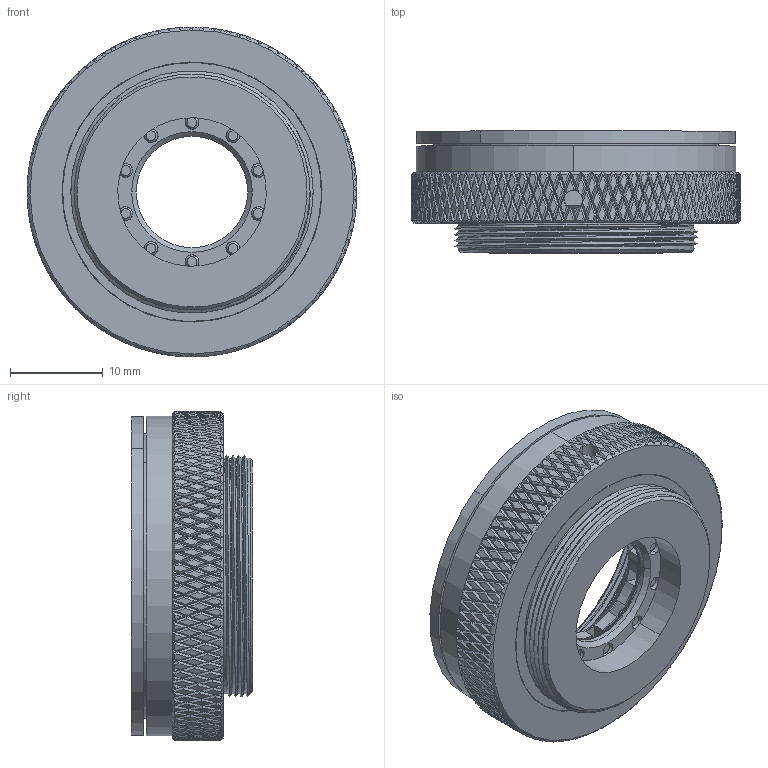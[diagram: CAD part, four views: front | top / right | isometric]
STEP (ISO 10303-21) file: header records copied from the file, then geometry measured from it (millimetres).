
FILE_DESCRIPTION((''),'2;1');
FILE_NAME('CDM-12_ASM','2020-10-14T',('Administrator'),(''),'CREO PARAMETRIC BY PTC INC, 2015290','CREO PARAMETRIC BY PTC INC, 2015290','');
FILE_SCHEMA(('CONFIG_CONTROL_DESIGN'));
Products named in the file (8): CDM-12_A1; CDM-12_A2; CDM-12_B1; CDM-12_B2; CDM-12_C1; CDM-12_A3; CDM-12_A4; CDM-12_ASM
Assembly tree (16 placements, depth 2):
  CDM-12_ASM
    CDM-12_A1
    CDM-12_A2
    CDM-12_B1  x10
    CDM-12_B2
    CDM-12_C1
    CDM-12_A3
    CDM-12_A4
Bounding box: 35.5 x 13.1 x 35.5 mm (x, y, z)
Volume: 6618.8 mm3; surface area: 9562.7 mm2
Topology: 16 solids, 16 shells, 2503 faces, 5762 edges, 3310 vertices
Faces by surface type: bspline 1669, cylinder 653, plane 124, cone 57
Entity records: 109683 total; most frequent: CARTESIAN_POINT 71092, ORIENTED_EDGE 10836, EDGE_CURVE 5418, B_SPLINE_CURVE_WITH_KNOTS 4609, VERTEX_POINT 3094, DIRECTION 2672, EDGE_LOOP 2384, FACE_OUTER_BOUND 2341
